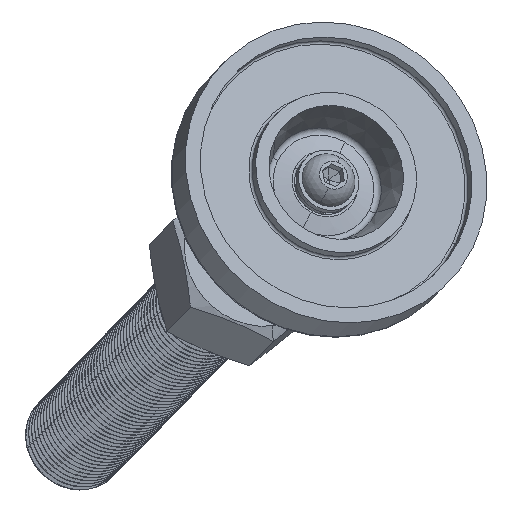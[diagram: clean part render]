
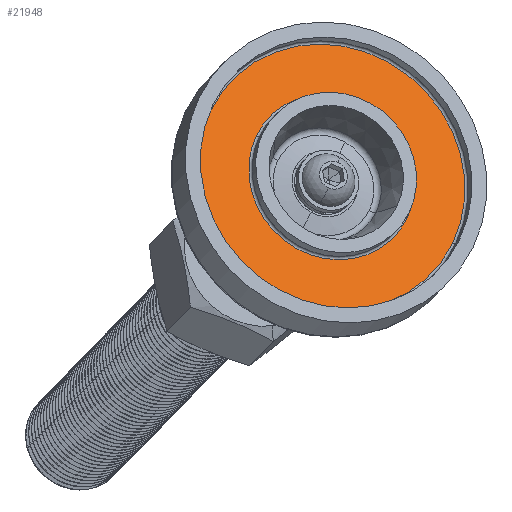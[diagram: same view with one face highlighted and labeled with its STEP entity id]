
A CAD part, front view. The second image highlights one B-rep face of the part: STEP entity #21948.
In plain terms, the highlighted planar face has unit normal (0.282, -0.915, 0.29) as drawn and (-1, 0, 0) by its records, which use the part's own axes.
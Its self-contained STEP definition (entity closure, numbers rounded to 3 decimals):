
#2096 = CARTESIAN_POINT ( 'NONE',  ( 34.237, 55.379, 26.5 ) ) ;
#2106 = CARTESIAN_POINT ( 'NONE',  ( 34.237, 55.379, -26.5 ) ) ;
#2477 = EDGE_CURVE ( 'NONE', #2984, #2986, #15007, .T. ) ;
#2533 = EDGE_CURVE ( 'NONE', #19502, #19522, #15074, .T. ) ;
#2535 = EDGE_CURVE ( 'NONE', #2986, #2984, #15076, .T. ) ;
#2536 = EDGE_CURVE ( 'NONE', #19522, #19502, #15079, .T. ) ;
#2631 = AXIS2_PLACEMENT_3D ( 'NONE', #17334, #17335, #17336 ) ;
#2675 = AXIS2_PLACEMENT_3D ( 'NONE', #4962, #4963, #4964 ) ;
#2677 = AXIS2_PLACEMENT_3D ( 'NONE', #4968, #4969, #4970 ) ;
#2678 = AXIS2_PLACEMENT_3D ( 'NONE', #4971, #4972, #4973 ) ;
#2984 = VERTEX_POINT ( 'NONE', #15312 ) ;
#2986 = VERTEX_POINT ( 'NONE', #15314 ) ;
#4962 = CARTESIAN_POINT ( 'NONE',  ( 34.237, 55.379, 0. ) ) ;
#4963 = DIRECTION ( 'NONE',  ( 1., 0., 0. ) ) ;
#4964 = DIRECTION ( 'NONE',  ( 0., 0., -1. ) ) ;
#4968 = CARTESIAN_POINT ( 'NONE',  ( 34.237, 55.379, 0. ) ) ;
#4969 = DIRECTION ( 'NONE',  ( 1., 0., 0. ) ) ;
#4970 = DIRECTION ( 'NONE',  ( 0., 0., -1. ) ) ;
#4971 = CARTESIAN_POINT ( 'NONE',  ( 34.237, 55.379, 0. ) ) ;
#4972 = DIRECTION ( 'NONE',  ( 1., 0., 0. ) ) ;
#4973 = DIRECTION ( 'NONE',  ( 0., 0., -1. ) ) ;
#6354 = FACE_BOUND ( 'NONE', #17489, .T. ) ;
#6371 = FACE_OUTER_BOUND ( 'NONE', #17487, .T. ) ;
#14693 = ORIENTED_EDGE ( 'NONE', *, *, #2535, .T. ) ;
#14694 = ORIENTED_EDGE ( 'NONE', *, *, #2477, .T. ) ;
#14695 = ORIENTED_EDGE ( 'NONE', *, *, #2536, .F. ) ;
#14696 = ORIENTED_EDGE ( 'NONE', *, *, #2533, .F. ) ;
#15007 = CIRCLE ( 'NONE', #2631, 16.5 ) ;
#15074 = CIRCLE ( 'NONE', #2675, 26.5 ) ;
#15076 = CIRCLE ( 'NONE', #2677, 16.5 ) ;
#15079 = CIRCLE ( 'NONE', #2678, 26.5 ) ;
#15312 = CARTESIAN_POINT ( 'NONE',  ( 34.237, 55.379, 16.5 ) ) ;
#15314 = CARTESIAN_POINT ( 'NONE',  ( 34.237, 55.379, -16.5 ) ) ;
#17334 = CARTESIAN_POINT ( 'NONE',  ( 34.237, 55.379, 0. ) ) ;
#17335 = DIRECTION ( 'NONE',  ( 1., 0., 0. ) ) ;
#17336 = DIRECTION ( 'NONE',  ( 0., 0., -1. ) ) ;
#17487 = EDGE_LOOP ( 'NONE', ( #14695, #14696 ) ) ;
#17489 = EDGE_LOOP ( 'NONE', ( #14693, #14694 ) ) ;
#18663 = AXIS2_PLACEMENT_3D ( 'NONE', #20645, #20654, #20655 ) ;
#19502 = VERTEX_POINT ( 'NONE', #2096 ) ;
#19522 = VERTEX_POINT ( 'NONE', #2106 ) ;
#20645 = CARTESIAN_POINT ( 'NONE',  ( 34.237, 66.615, 0. ) ) ;
#20650 = PLANE ( 'NONE',  #18663 ) ;
#20654 = DIRECTION ( 'NONE',  ( -1., 0., 0. ) ) ;
#20655 = DIRECTION ( 'NONE',  ( 0., 0., 1. ) ) ;
#21948 = ADVANCED_FACE ( 'NONE', ( #6354, #6371 ), #20650, .T. ) ;
